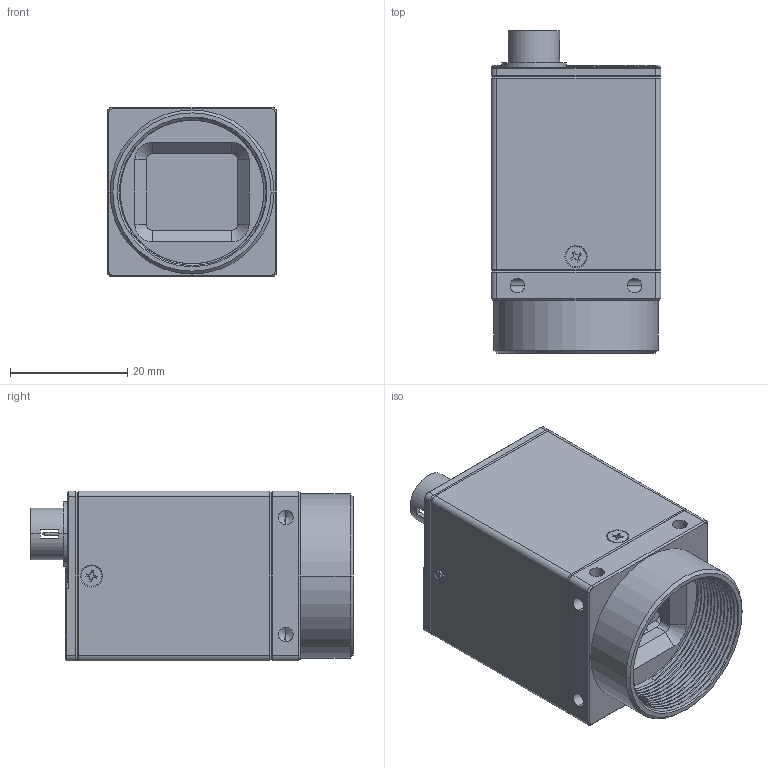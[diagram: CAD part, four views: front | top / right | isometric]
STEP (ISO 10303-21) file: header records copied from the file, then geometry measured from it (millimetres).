
FILE_DESCRIPTION (( 'STEP AP203' ), '1' );
FILE_NAME ('GEV-CB-V3.STEP', '2023-05-31T02:56:47', ( '' ), ( '' ), 'SwSTEP 2.0', 'SolidWorks 2022', '' );
FILE_SCHEMA (( 'CONFIG_CONTROL_DESIGN' ));
Length unit declared in the file: millimetre
Products named in the file (1): GEV-CB-V3
Bounding box: 29 x 55 x 29 mm (x, y, z)
Volume: 18020.9 mm3; surface area: 26196.1 mm2
Topology: 31 solids, 31 shells, 1325 faces, 3403 edges, 2149 vertices
Faces by surface type: plane 538, cylinder 481, cone 263, bspline 41, torus 2
Entity records: 45039 total; most frequent: CARTESIAN_POINT 13750, ORIENTED_EDGE 6718, DIRECTION 6159, EDGE_CURVE 3359, AXIS2_PLACEMENT_3D 2218, VERTEX_POINT 2149, VECTOR 1723, LINE 1723
